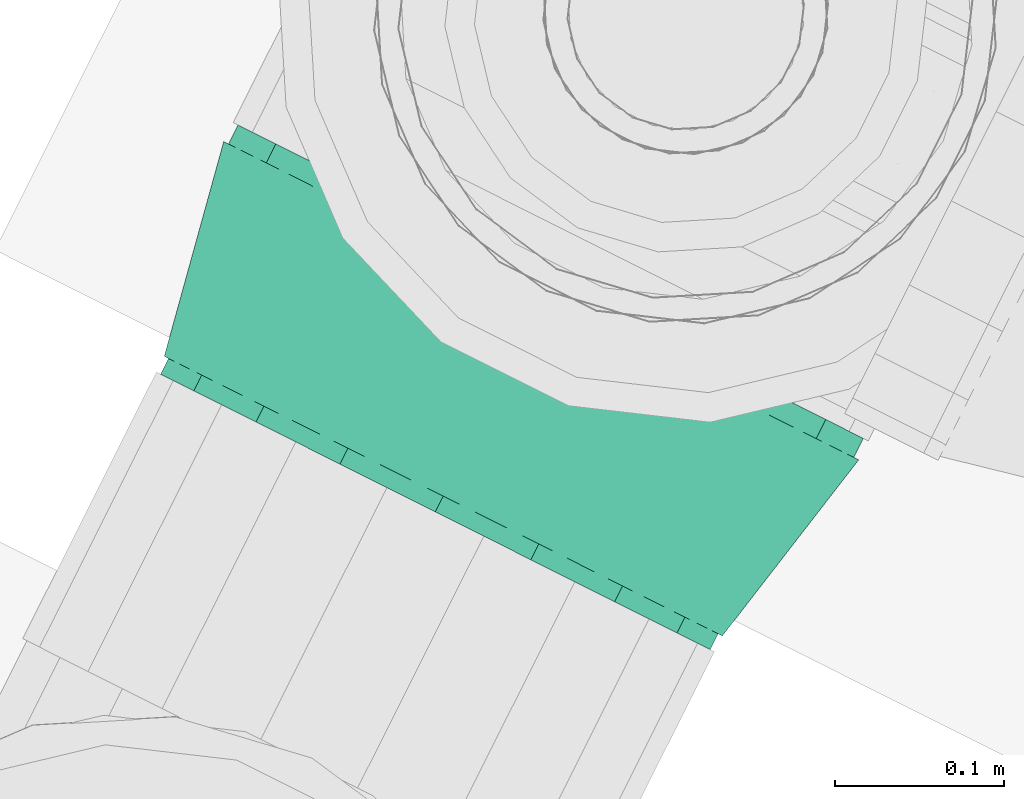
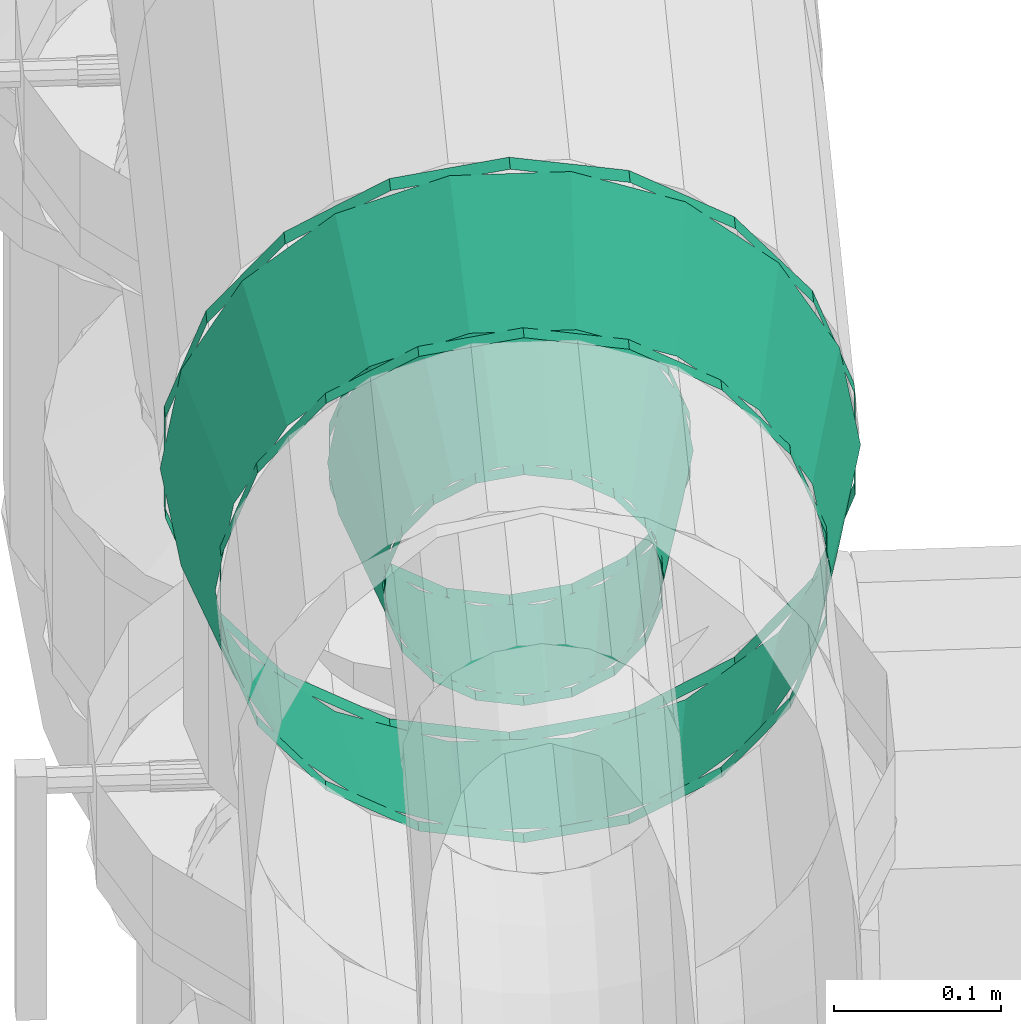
# One storey, part 95 of 152: 1 flow fitting.
"""IFC2X3 building model written with IfcOpenShell, lengths in metres."""

from ifc_helpers import new_model, si_unit, derived_unit, direction, frame, origin, place, context, subcontext, project, spatial, face_set, surface_model, source, transform, mapped, material, type_object, type_shapes, element, save


model = new_model("IFC2X3")

# Units and contexts
model_context = context("Model", 3, precision=5.2338327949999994e-05, world=origin(), true_north=direction((0.0, 1.0)))
body_context = subcontext(model_context, "Body", "Model", "MODEL_VIEW")
ifc_project = project(units=[si_unit("LENGTHUNIT", "METRE"), si_unit("AREAUNIT", "SQUARE_METRE"), si_unit("VOLUMEUNIT", "CUBIC_METRE"), si_unit("MASSUNIT", "GRAM", prefix="KILO"), si_unit("PLANEANGLEUNIT", "RADIAN"), derived_unit("THERMALTRANSMITTANCEUNIT", [(si_unit("MASSUNIT", "GRAM", prefix="KILO"), 1), (si_unit("THERMODYNAMICTEMPERATUREUNIT", "KELVIN"), -1), (si_unit("TIMEUNIT", "SECOND"), -3)])], contexts=[model_context])

# Site, building, storey
site_placement = place(None, frame((0.0, 0.0, 0.0), z_axis=(0.0, 0.0, 1.0), x_axis=(0.8939966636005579, -0.4480736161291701, 0.0)))
site = spatial("IfcSite", under=ifc_project, at=site_placement, Name="Default", CompositionType="ELEMENT")
building_placement = place(site_placement, origin())
building = spatial("IfcBuilding", under=site, at=building_placement, CompositionType="ELEMENT")
storey_placement = place(building_placement, frame((0.0, 0.0, 2.7499999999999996)))
storey = spatial("IfcBuildingStorey", under=building, at=storey_placement, Name="1. Obergeschoss", CompositionType="ELEMENT", Elevation=2.7499999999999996)

# Flow fitting
ifc_material = material(Name="IfcSurfaceStyle #9317")
distribution_element_type = type_object("IfcDistributionElementType", Name="Übergangsstück 222976:Übergangsstück 222976", material=ifc_material)
shared_shape = source(origin(), body_context, "Body", "SurfaceModel", [
    surface_model("IfcFaceBasedSurfaceModel", [(9.625770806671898, 6.2617480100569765, 5.006456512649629), (9.654551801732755, 6.2617480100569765, 5.001381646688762), (9.654551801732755, 6.272207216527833, 5.001381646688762), (9.625770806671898, 6.272207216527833, 5.006456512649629), (9.67986138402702, 6.2617480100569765, 4.986769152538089), (9.67986138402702, 6.272207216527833, 4.986769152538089), (9.69864684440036, 6.2617480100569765, 4.964381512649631), (9.69864684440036, 6.272207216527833, 4.964381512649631), (9.708642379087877, 6.2617480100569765, 4.9369190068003), (9.708642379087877, 6.272207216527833, 4.9369190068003), (9.708642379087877, 6.2617480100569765, 4.907694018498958), (9.708642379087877, 6.272207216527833, 4.907694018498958), (9.69864684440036, 6.2617480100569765, 4.880231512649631), (9.69864684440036, 6.272207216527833, 4.880231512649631), (9.67986138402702, 6.2617480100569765, 4.85784387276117), (9.67986138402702, 6.272207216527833, 4.85784387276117), (9.654551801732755, 6.2617480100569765, 4.843231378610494), (9.654551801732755, 6.272207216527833, 4.843231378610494), (9.6257708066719, 6.2617480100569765, 4.838156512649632), (9.6257708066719, 6.272207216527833, 4.838156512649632), (9.596989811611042, 6.2617480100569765, 4.843231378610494), (9.596989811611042, 6.272207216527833, 4.843231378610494), (9.571680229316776, 6.2617480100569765, 4.857843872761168), (9.571680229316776, 6.272207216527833, 4.857843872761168), (9.552894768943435, 6.2617480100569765, 4.8802315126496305), (9.552894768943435, 6.272207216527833, 4.8802315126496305), (9.542899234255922, 6.2617480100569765, 4.907694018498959), (9.542899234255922, 6.272207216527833, 4.907694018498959), (9.542899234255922, 6.2617480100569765, 4.936919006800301), (9.542899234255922, 6.272207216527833, 4.936919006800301), (9.552894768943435, 6.2617480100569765, 4.964381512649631), (9.552894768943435, 6.272207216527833, 4.964381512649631), (9.571680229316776, 6.2617480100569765, 4.98676915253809), (9.571680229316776, 6.272207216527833, 4.98676915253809), (9.596989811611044, 6.2617480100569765, 5.001381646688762), (9.596989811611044, 6.272207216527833, 5.001381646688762), (9.709920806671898, 6.272207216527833, 4.922306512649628), (9.704845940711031, 6.272207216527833, 4.893525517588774), (9.728714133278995, 6.401144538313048, 4.884838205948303), (9.735320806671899, 6.401144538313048, 4.92230651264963), (9.690233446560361, 6.272207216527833, 4.868215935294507), (9.709690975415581, 6.401144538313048, 4.851889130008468), (9.667845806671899, 6.272207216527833, 4.849430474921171), (9.680545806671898, 6.401144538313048, 4.827433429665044), (9.64038330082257, 6.272207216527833, 4.839434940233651), (9.644793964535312, 6.401144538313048, 4.814420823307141), (9.611158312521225, 6.272207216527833, 4.839434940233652), (9.606747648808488, 6.401144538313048, 4.814420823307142), (9.5836958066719, 6.272207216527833, 4.849430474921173), (9.570995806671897, 6.401144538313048, 4.827433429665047), (9.561308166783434, 6.272207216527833, 4.868215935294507), (9.541850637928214, 6.401144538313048, 4.851889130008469), (9.546695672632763, 6.272207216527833, 4.893525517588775), (9.522827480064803, 6.401144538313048, 4.884838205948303), (9.541620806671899, 6.272207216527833, 4.922306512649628), (9.5162208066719, 6.401144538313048, 4.922306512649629), (9.546695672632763, 6.272207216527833, 4.9510875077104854), (9.522827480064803, 6.401144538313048, 4.959774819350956), (9.561308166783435, 6.272207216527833, 4.976397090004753), (9.541850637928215, 6.401144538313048, 4.992723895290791), (9.5836958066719, 6.272207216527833, 4.99518255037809), (9.5709958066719, 6.401144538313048, 5.0171795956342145), (9.611158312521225, 6.272207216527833, 5.005178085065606), (9.606747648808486, 6.401144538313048, 5.030192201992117), (9.64038330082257, 6.272207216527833, 5.005178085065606), (9.644793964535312, 6.401144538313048, 5.030192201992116), (9.667845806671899, 6.272207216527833, 4.99518255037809), (9.680545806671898, 6.401144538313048, 5.017179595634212), (9.690233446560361, 6.272207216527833, 4.976397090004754), (9.709690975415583, 6.401144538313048, 4.992723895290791), (9.704845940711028, 6.272207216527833, 4.951087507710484), (9.728714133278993, 6.401144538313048, 4.959774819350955), (9.625770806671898, 6.401144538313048, 5.031856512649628), (9.663239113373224, 6.401144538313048, 5.025249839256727), (9.663239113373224, 6.413748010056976, 5.025249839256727), (9.625770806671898, 6.413748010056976, 5.031856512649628), (9.69618818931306, 6.401144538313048, 5.006226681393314), (9.69618818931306, 6.413748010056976, 5.006226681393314), (9.720643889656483, 6.401144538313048, 4.9770815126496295), (9.720643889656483, 6.413748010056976, 4.9770815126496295), (9.733656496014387, 6.401144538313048, 4.941329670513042), (9.733656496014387, 6.413748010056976, 4.941329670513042), (9.733656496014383, 6.401144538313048, 4.903283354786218), (9.733656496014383, 6.413748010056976, 4.903283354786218), (9.720643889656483, 6.401144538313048, 4.86753151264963), (9.720643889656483, 6.413748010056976, 4.86753151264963), (9.696188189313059, 6.401144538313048, 4.838386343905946), (9.696188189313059, 6.413748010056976, 4.838386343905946), (9.663239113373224, 6.401144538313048, 4.819363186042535), (9.663239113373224, 6.413748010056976, 4.819363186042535), (9.625770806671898, 6.401144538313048, 4.812756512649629), (9.625770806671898, 6.413748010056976, 4.812756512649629), (9.588302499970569, 6.401144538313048, 4.8193631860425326), (9.588302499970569, 6.413748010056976, 4.8193631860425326), (9.555353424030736, 6.401144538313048, 4.838386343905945), (9.555353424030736, 6.413748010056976, 4.838386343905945), (9.530897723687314, 6.401144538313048, 4.86753151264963), (9.530897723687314, 6.413748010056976, 4.86753151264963), (9.51788511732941, 6.401144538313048, 4.903283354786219), (9.51788511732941, 6.413748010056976, 4.903283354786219), (9.517885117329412, 6.401144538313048, 4.941329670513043), (9.517885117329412, 6.413748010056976, 4.941329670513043), (9.530897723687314, 6.401144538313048, 4.9770815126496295), (9.530897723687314, 6.413748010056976, 4.9770815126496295), (9.555353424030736, 6.401144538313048, 5.006226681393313), (9.555353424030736, 6.413748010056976, 5.006226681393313), (9.588302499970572, 6.401144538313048, 5.025249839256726), (9.588302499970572, 6.413748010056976, 5.025249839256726), (9.625770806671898, 6.2617480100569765, 5.10645651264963), (9.68875381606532, 6.2617480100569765, 5.0953509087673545), (9.68875381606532, 6.272207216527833, 5.0953509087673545), (9.625770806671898, 6.272207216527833, 5.106456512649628), (9.744140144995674, 6.2617480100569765, 5.063373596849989), (9.744140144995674, 6.272207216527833, 5.063373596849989), (9.785249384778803, 6.2617480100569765, 5.014381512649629), (9.785249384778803, 6.272207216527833, 5.014381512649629), (9.807123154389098, 6.2617480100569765, 4.954283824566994), (9.807123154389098, 6.272207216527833, 4.954283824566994), (9.807123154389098, 6.2617480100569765, 4.890329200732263), (9.807123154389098, 6.272207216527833, 4.890329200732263), (9.785249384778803, 6.2617480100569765, 4.83023151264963), (9.785249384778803, 6.272207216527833, 4.83023151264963), (9.744140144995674, 6.2617480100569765, 4.781239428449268), (9.744140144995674, 6.272207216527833, 4.781239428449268), (9.68875381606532, 6.2617480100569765, 4.749262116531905), (9.68875381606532, 6.272207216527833, 4.749262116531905), (9.625770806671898, 6.2617480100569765, 4.7381565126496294), (9.625770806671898, 6.272207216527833, 4.7381565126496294), (9.562787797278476, 6.2617480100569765, 4.749262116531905), (9.562787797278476, 6.272207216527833, 4.749262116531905), (9.507401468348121, 6.2617480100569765, 4.781239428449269), (9.507401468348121, 6.272207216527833, 4.781239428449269), (9.466292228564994, 6.2617480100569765, 4.830231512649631), (9.466292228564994, 6.272207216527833, 4.830231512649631), (9.4444184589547, 6.2617480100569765, 4.890329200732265), (9.4444184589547, 6.272207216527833, 4.890329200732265), (9.4444184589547, 6.2617480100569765, 4.954283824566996), (9.4444184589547, 6.272207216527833, 4.954283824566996), (9.466292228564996, 6.2617480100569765, 5.014381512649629), (9.466292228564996, 6.272207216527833, 5.014381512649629), (9.507401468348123, 6.2617480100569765, 5.063373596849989), (9.507401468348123, 6.272207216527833, 5.063373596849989), (9.562787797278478, 6.2617480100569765, 5.095350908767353), (9.562787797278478, 6.272207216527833, 5.095350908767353), (9.8099208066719, 6.272207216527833, 4.922306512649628), (9.798815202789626, 6.272207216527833, 4.859323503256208), (9.822683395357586, 6.401144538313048, 4.850636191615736), (9.8353208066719, 6.401144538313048, 4.92230651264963), (9.766837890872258, 6.272207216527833, 4.8039371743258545), (9.78629541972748, 6.401144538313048, 4.787610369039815), (9.717845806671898, 6.272207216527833, 4.762827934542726), (9.730545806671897, 6.401144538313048, 4.740830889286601), (9.657748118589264, 6.272207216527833, 4.74095416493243), (9.662158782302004, 6.401144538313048, 4.715940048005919), (9.593793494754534, 6.272207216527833, 4.740954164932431), (9.589382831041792, 6.401144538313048, 4.71594004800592), (9.533695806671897, 6.272207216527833, 4.762827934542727), (9.520995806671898, 6.401144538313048, 4.740830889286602), (9.484703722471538, 6.272207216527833, 4.803937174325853), (9.465246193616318, 6.401144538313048, 4.787610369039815), (9.452726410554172, 6.272207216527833, 4.859323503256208), (9.428858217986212, 6.401144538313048, 4.850636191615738), (9.441620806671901, 6.272207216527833, 4.922306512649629), (9.4162208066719, 6.401144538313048, 4.92230651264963), (9.452726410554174, 6.272207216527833, 4.98528952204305), (9.428858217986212, 6.401144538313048, 4.993976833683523), (9.48470372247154, 6.272207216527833, 5.040675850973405), (9.465246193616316, 6.401144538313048, 5.057002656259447), (9.533695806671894, 6.272207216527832, 5.0817850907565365), (9.5209958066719, 6.401144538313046, 5.10378213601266), (9.593793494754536, 6.272207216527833, 5.103658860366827), (9.589382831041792, 6.401144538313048, 5.128672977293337), (9.657748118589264, 6.272207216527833, 5.103658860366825), (9.662158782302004, 6.401144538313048, 5.128672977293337), (9.717845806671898, 6.272207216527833, 5.081785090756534), (9.730545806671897, 6.401144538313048, 5.103782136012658), (9.766837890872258, 6.272207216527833, 5.040675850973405), (9.786295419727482, 6.401144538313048, 5.057002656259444), (9.798815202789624, 6.272207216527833, 4.98528952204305), (9.822683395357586, 6.401144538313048, 4.99397683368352), (9.6257708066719, 6.401144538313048, 5.131856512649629), (9.697441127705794, 6.401144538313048, 5.119219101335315), (9.697441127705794, 6.413748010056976, 5.119219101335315), (9.6257708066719, 6.413748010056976, 5.131856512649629), (9.760466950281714, 6.401144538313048, 5.082831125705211), (9.760466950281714, 6.413748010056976, 5.082831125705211), (9.807246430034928, 6.401144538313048, 5.027081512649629), (9.807246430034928, 6.413748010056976, 5.027081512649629), (9.832137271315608, 6.401144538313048, 4.9586944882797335), (9.832137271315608, 6.413748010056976, 4.9586944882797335), (9.832137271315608, 6.401144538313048, 4.885918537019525), (9.832137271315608, 6.413748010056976, 4.885918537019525), (9.807246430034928, 6.401144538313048, 4.817531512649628), (9.807246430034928, 6.413748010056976, 4.817531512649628), (9.760466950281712, 6.401144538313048, 4.761781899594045), (9.760466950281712, 6.413748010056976, 4.761781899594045), (9.697441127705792, 6.401144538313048, 4.725393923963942), (9.697441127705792, 6.413748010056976, 4.725393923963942), (9.625770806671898, 6.401144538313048, 4.71275651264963), (9.625770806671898, 6.413748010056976, 4.71275651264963), (9.554100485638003, 6.401144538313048, 4.725393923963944), (9.554100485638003, 6.413748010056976, 4.725393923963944), (9.491074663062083, 6.401144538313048, 4.761781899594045), (9.491074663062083, 6.413748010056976, 4.761781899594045), (9.444295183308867, 6.401144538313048, 4.81753151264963), (9.444295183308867, 6.413748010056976, 4.81753151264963), (9.419404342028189, 6.401144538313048, 4.885918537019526), (9.419404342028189, 6.413748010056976, 4.885918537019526), (9.419404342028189, 6.401144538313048, 4.9586944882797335), (9.419404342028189, 6.413748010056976, 4.9586944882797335), (9.44429518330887, 6.401144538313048, 5.02708151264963), (9.44429518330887, 6.413748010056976, 5.02708151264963), (9.491074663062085, 6.401144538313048, 5.082831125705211), (9.491074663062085, 6.413748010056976, 5.082831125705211), (9.554100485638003, 6.401144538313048, 5.119219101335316), (9.554100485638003, 6.413748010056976, 5.119219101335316)], [face_set([[[0, 1, 2, 3]], [[1, 4, 5, 2]], [[4, 6, 7, 5]], [[6, 8, 9, 7]], [[8, 10, 11, 9]], [[10, 12, 13, 11]], [[12, 14, 15, 13]], [[14, 16, 17, 15]], [[16, 18, 19, 17]], [[18, 20, 21, 19]], [[20, 22, 23, 21]], [[22, 24, 25, 23]], [[24, 26, 27, 25]], [[26, 28, 29, 27]], [[28, 30, 31, 29]], [[30, 32, 33, 31]], [[32, 34, 35, 33]], [[34, 0, 3, 35]], [[36, 37, 38, 39]], [[37, 40, 41, 38]], [[40, 42, 43, 41]], [[42, 44, 45, 43]], [[44, 46, 47, 45]], [[46, 48, 49, 47]], [[48, 50, 51, 49]], [[50, 52, 53, 51]], [[52, 54, 55, 53]], [[54, 56, 57, 55]], [[56, 58, 59, 57]], [[58, 60, 61, 59]], [[60, 62, 63, 61]], [[62, 64, 65, 63]], [[64, 66, 67, 65]], [[66, 68, 69, 67]], [[68, 70, 71, 69]], [[70, 36, 39, 71]], [[72, 73, 74, 75]], [[73, 76, 77, 74]], [[76, 78, 79, 77]], [[78, 80, 81, 79]], [[80, 82, 83, 81]], [[82, 84, 85, 83]], [[84, 86, 87, 85]], [[86, 88, 89, 87]], [[88, 90, 91, 89]], [[90, 92, 93, 91]], [[92, 94, 95, 93]], [[94, 96, 97, 95]], [[96, 98, 99, 97]], [[98, 100, 101, 99]], [[100, 102, 103, 101]], [[102, 104, 105, 103]], [[104, 106, 107, 105]], [[106, 72, 75, 107]], [[108, 109, 110, 111]], [[109, 112, 113, 110]], [[112, 114, 115, 113]], [[114, 116, 117, 115]], [[116, 118, 119, 117]], [[118, 120, 121, 119]], [[120, 122, 123, 121]], [[122, 124, 125, 123]], [[124, 126, 127, 125]], [[126, 128, 129, 127]], [[128, 130, 131, 129]], [[130, 132, 133, 131]], [[132, 134, 135, 133]], [[134, 136, 137, 135]], [[136, 138, 139, 137]], [[138, 140, 141, 139]], [[140, 142, 143, 141]], [[142, 108, 111, 143]], [[144, 145, 146, 147]], [[145, 148, 149, 146]], [[148, 150, 151, 149]], [[150, 152, 153, 151]], [[152, 154, 155, 153]], [[154, 156, 157, 155]], [[156, 158, 159, 157]], [[158, 160, 161, 159]], [[160, 162, 163, 161]], [[162, 164, 165, 163]], [[164, 166, 167, 165]], [[166, 168, 169, 167]], [[168, 170, 171, 169]], [[170, 172, 173, 171]], [[172, 174, 175, 173]], [[174, 176, 177, 175]], [[176, 178, 179, 177]], [[178, 144, 147, 179]], [[180, 181, 182, 183]], [[181, 184, 185, 182]], [[184, 186, 187, 185]], [[186, 188, 189, 187]], [[188, 190, 191, 189]], [[190, 192, 193, 191]], [[192, 194, 195, 193]], [[194, 196, 197, 195]], [[196, 198, 199, 197]], [[198, 200, 201, 199]], [[200, 202, 203, 201]], [[202, 204, 205, 203]], [[204, 206, 207, 205]], [[206, 208, 209, 207]], [[208, 210, 211, 209]], [[210, 212, 213, 211]], [[212, 214, 215, 213]], [[214, 180, 183, 215]]])]),
])
type_shapes(distribution_element_type, [shared_shape])
flow_fitting_placement = place(storey_placement, frame((0.0, 0.0, -2.7499999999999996)))
element("IfcFlowFitting", 1, at=flow_fitting_placement, inside=storey, type_object=distribution_element_type, material=ifc_material, Name="Übergangsstück", ObjectType="Übergangsstück", context=body_context, shape_type="MappedRepresentation", body=[
    mapped(shared_shape, transform((0.0, 0.0, 0.0), scale=1.0)),
])

save(model, "model.ifc")
